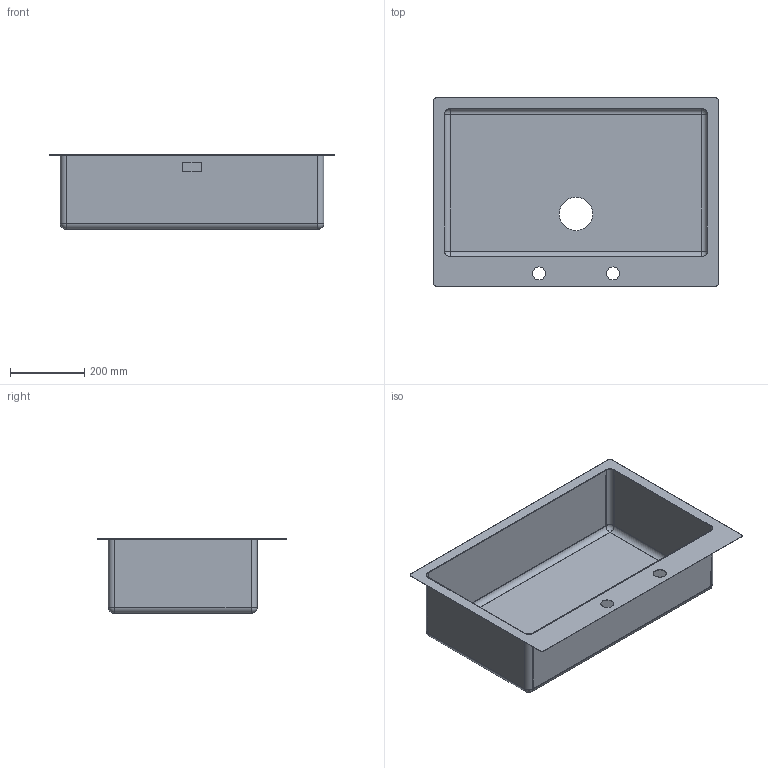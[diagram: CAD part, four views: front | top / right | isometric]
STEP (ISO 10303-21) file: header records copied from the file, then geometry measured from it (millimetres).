
FILE_DESCRIPTION(('CATIA V5 STEP Exchange'),'2;1');
FILE_NAME('C:\Users\linop\Desktop\LFT77RS.stp','2018-05-30T16:09:40+00:00',('none'),('none'),'CATIA Version 5-6 Release 2014','CATIA V5 STEP AP203','none');
FILE_SCHEMA(('CONFIG_CONTROL_DESIGN'));
Length unit declared in the file: millimetre
Products named in the file (1): LFT77RS
Bounding box: 770 x 510 x 200.9 mm (x, y, z)
Volume: 797142.2 mm3; surface area: 1622754.5 mm2
Topology: 2 solids, 2 shells, 63 faces, 158 edges, 92 vertices
Faces by surface type: cylinder 30, plane 25, sphere 8
Entity records: 1796 total; most frequent: CARTESIAN_POINT 303, ORIENTED_EDGE 300, DIRECTION 270, EDGE_CURVE 150, AXIS2_PLACEMENT_3D 121, VERTEX_POINT 92, VECTOR 90, LINE 90
